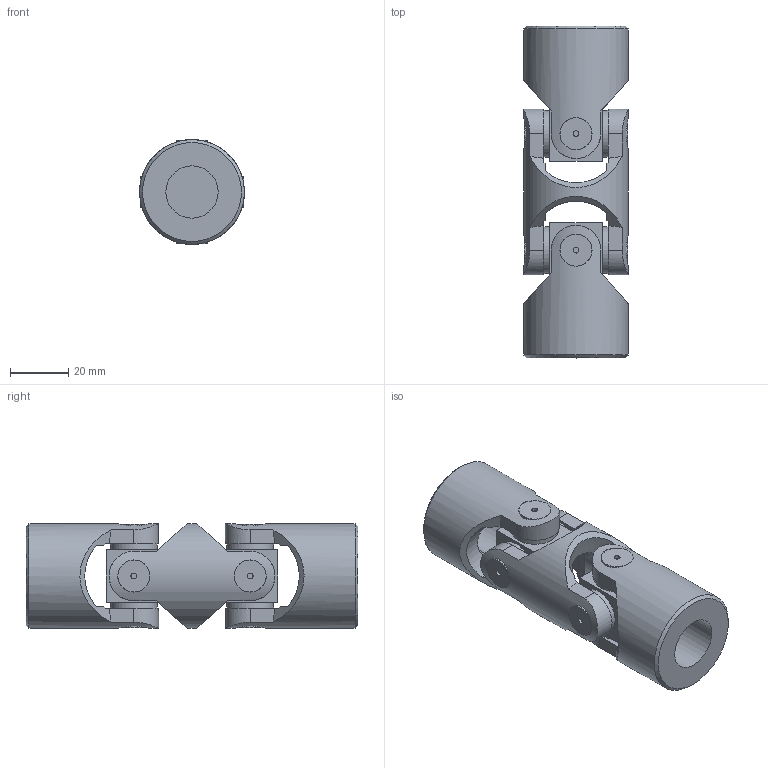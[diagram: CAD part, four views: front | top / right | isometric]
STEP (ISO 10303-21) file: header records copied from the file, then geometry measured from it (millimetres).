
FILE_DESCRIPTION(/* description */ (''),/* implementation_level */ '2;1');
FILE_NAME(/* name */ '\\SRV2016\Societa\Stefano\Disegni 3D\00Catalogo 3D\02Doppi GD-GBD\SG0D1800.stp',/* time_stamp */ '2021-11-23T12:22:53+01:00',/* author */ ('acquisti'),/* organization */ (''),/* preprocessor_version */ 'ST-DEVELOPER v15.6',/* originating_system */ 'Autodesk Inventor 2015',/* authorisation */ '');
FILE_SCHEMA (('AUTOMOTIVE_DESIGN { 1 0 10303 214 3 1 1 }'));
Length unit declared in the file: millimetre
Products named in the file (4): 2G MOD; 2G SFE; 2G MOS; Ø36_2GD-00_SG0D1800
Assembly tree (5 placements, depth 2):
  Ø36_2GD-00_SG0D1800
    2G MOD
    2G SFE  x2
    2G MOS  x2
Bounding box: 36 x 114 x 36 mm (x, y, z)
Volume: 74442.5 mm3; surface area: 25855.8 mm2
Topology: 5 solids, 5 shells, 161 faces, 377 edges, 246 vertices
Faces by surface type: plane 70, cylinder 65, cone 22, torus 4
Full cylindrical faces by diameter (mm): 2 x8, 16 x8, 18 x2, 20 x4, 36 x3
Entity records: 3784 total; most frequent: CARTESIAN_POINT 1340, ORIENTED_EDGE 482, DIRECTION 466, EDGE_CURVE 241, AXIS2_PLACEMENT_3D 209, VERTEX_POINT 171, EDGE_LOOP 152, FACE_OUTER_BOUND 112
